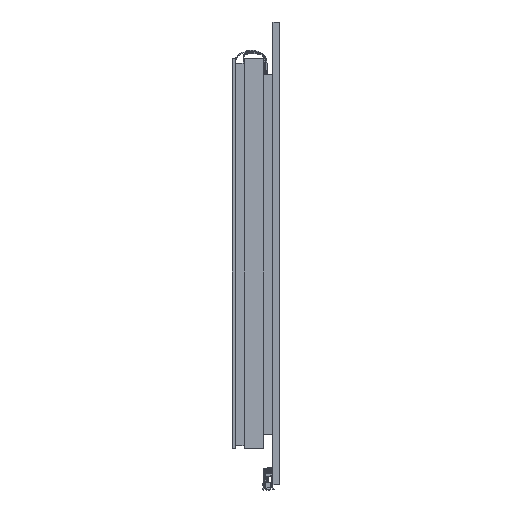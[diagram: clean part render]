
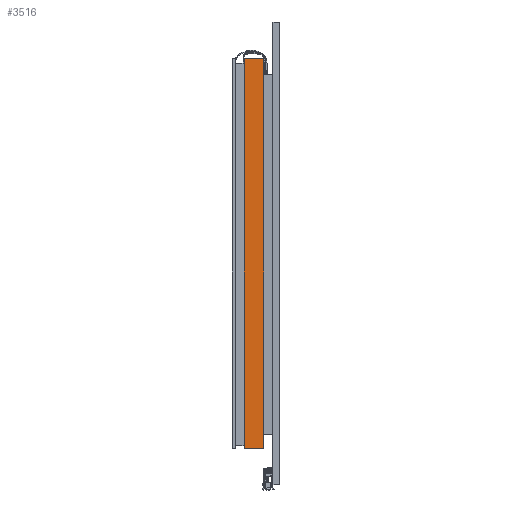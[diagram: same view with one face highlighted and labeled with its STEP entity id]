
A CAD part, left-side view. The second image highlights one B-rep face of the part: STEP entity #3516.
In plain terms, the highlighted planar face has unit normal (-1, 0, 0).
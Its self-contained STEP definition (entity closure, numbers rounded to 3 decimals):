
#87=DIRECTION('',(0.,0.,1.));
#88=VECTOR('',#87,99.8);
#89=CARTESIAN_POINT('',(-82.4,9.,-49.65));
#90=LINE('',#89,#88);
#185=DIRECTION('',(0.,1.,0.));
#186=VECTOR('',#185,5.);
#187=CARTESIAN_POINT('',(-82.4,4.,50.15));
#188=LINE('',#187,#186);
#193=DIRECTION('',(0.,0.,1.));
#194=VECTOR('',#193,99.8);
#195=CARTESIAN_POINT('',(-82.4,4.,-49.65));
#196=LINE('',#195,#194);
#241=DIRECTION('',(0.,1.,0.));
#242=VECTOR('',#241,5.);
#243=CARTESIAN_POINT('',(-82.4,4.,-49.65));
#244=LINE('',#243,#242);
#2953=CARTESIAN_POINT('',(-82.4,4.,-49.65));
#2954=CARTESIAN_POINT('',(-82.4,4.,50.15));
#2955=VERTEX_POINT('',#2953);
#2956=VERTEX_POINT('',#2954);
#2961=CARTESIAN_POINT('',(-82.4,9.,-49.65));
#2962=CARTESIAN_POINT('',(-82.4,9.,50.15));
#2963=VERTEX_POINT('',#2961);
#2964=VERTEX_POINT('',#2962);
#3504=CARTESIAN_POINT('',(-82.4,4.,-49.65));
#3505=DIRECTION('',(-1.,0.,0.));
#3506=DIRECTION('',(0.,0.,1.));
#3507=AXIS2_PLACEMENT_3D('',#3504,#3505,#3506);
#3508=PLANE('',#3507);
#3509=ORIENTED_EDGE('',*,*,#3475,.F.);
#3511=ORIENTED_EDGE('',*,*,#3510,.T.);
#3512=ORIENTED_EDGE('',*,*,#3325,.T.);
#3513=ORIENTED_EDGE('',*,*,#3451,.F.);
#3514=EDGE_LOOP('',(#3509,#3511,#3512,#3513));
#3515=FACE_OUTER_BOUND('',#3514,.F.);
#3325=EDGE_CURVE('',#2963,#2964,#90,.T.);
#3451=EDGE_CURVE('',#2956,#2964,#188,.T.);
#3475=EDGE_CURVE('',#2955,#2956,#196,.T.);
#3510=EDGE_CURVE('',#2955,#2963,#244,.T.);
#3516=ADVANCED_FACE('',(#3515),#3508,.T.);
